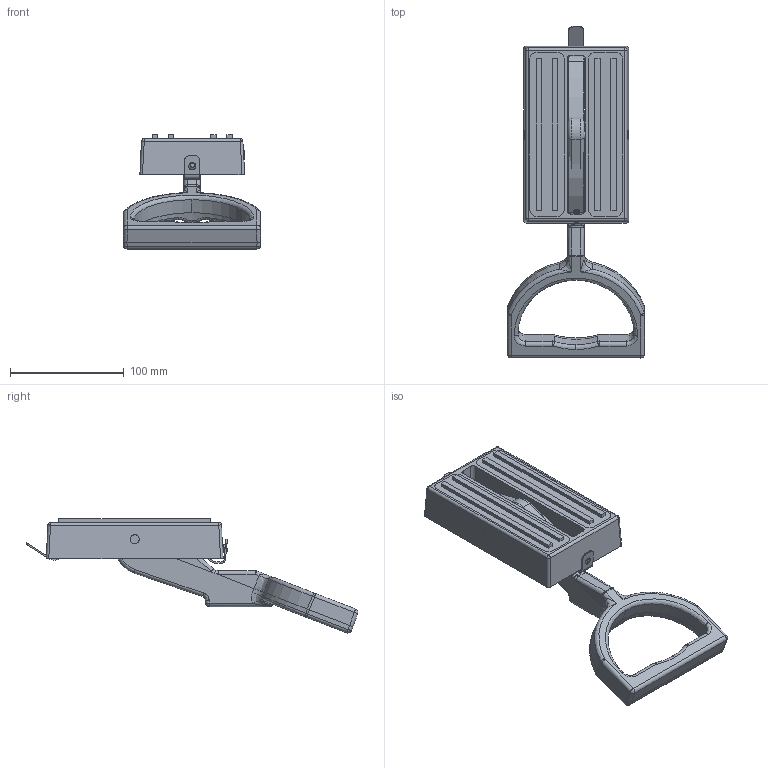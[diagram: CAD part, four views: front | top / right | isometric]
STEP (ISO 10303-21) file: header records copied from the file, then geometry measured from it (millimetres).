
FILE_DESCRIPTION (( 'STEP AP203' ), '1' );
FILE_NAME ('B100.STEP', '2018-10-26T17:49:16', ( '' ), ( '' ), 'SwSTEP 2.0', 'SolidWorks 2015', '' );
FILE_SCHEMA (( 'CONFIG_CONTROL_DESIGN' ));
Products named in the file (1): B100
Bounding box: 120.65 x 291.7 x 100.25 mm (x, y, z)
Volume: 513974.7 mm3; surface area: 211599 mm2
Topology: 11 solids, 11 shells, 1445 faces, 3722 edges, 2408 vertices
Faces by surface type: plane 829, bspline 415, cylinder 107, cone 88, sphere 6
Entity records: 67627 total; most frequent: CARTESIAN_POINT 35152, ORIENTED_EDGE 7436, DIRECTION 5227, EDGE_CURVE 3718, VECTOR 2563, LINE 2563, VERTEX_POINT 2408, EDGE_LOOP 1608
